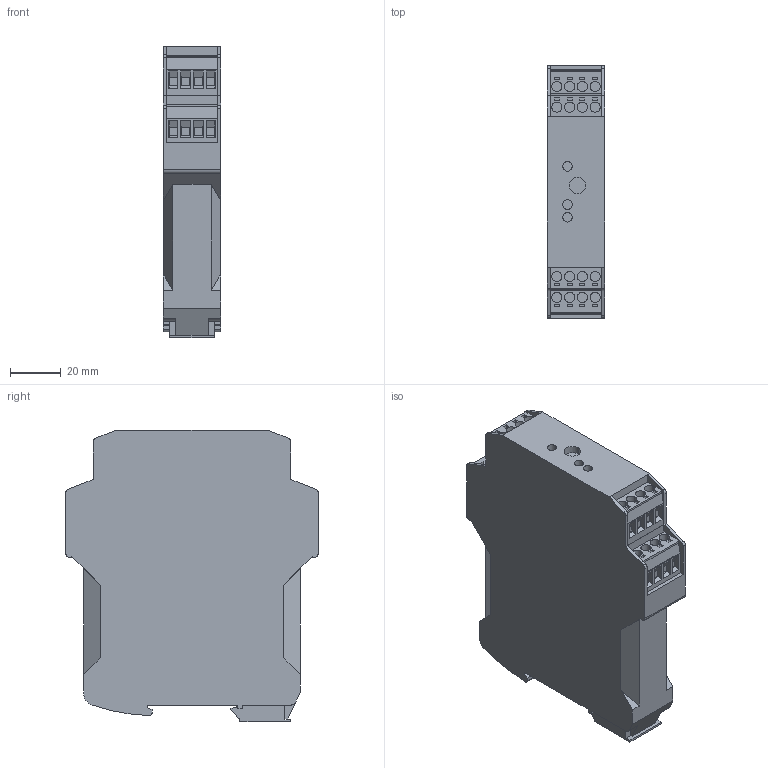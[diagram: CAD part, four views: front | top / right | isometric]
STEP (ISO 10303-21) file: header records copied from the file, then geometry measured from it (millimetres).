
FILE_DESCRIPTION( ( '' ), '1' );
FILE_NAME( '//partserver001.servicenet/client_exchange/iodir/jobs/output/wkb33062826_no0/STEP/118706_2_14b.stp', '2011-04-08T20:19:36', ( '' ), ( '' ), ' ', ' ', ' ' );
FILE_SCHEMA( ( 'automotive_design' ) );
Length unit declared in the file: millimetre
Products named in the file (1): 1
Bounding box: 22.5 x 99 x 114.5 mm (x, y, z)
Volume: 209320.7 mm3; surface area: 30104 mm2
Topology: 1 solids, 1 shells, 380 faces, 962 edges, 636 vertices
Faces by surface type: plane 325, cylinder 55
Entity records: 22322 total; most frequent: STYLED_ITEM 1979, PRESENTATION_STYLE_ASSIGNMENT 1979, CARTESIAN_POINT 1979, COLOUR_RGB 1979, ORIENTED_EDGE 1924, DIRECTION 1834, EDGE_CURVE 962, CURVE_STYLE 962
